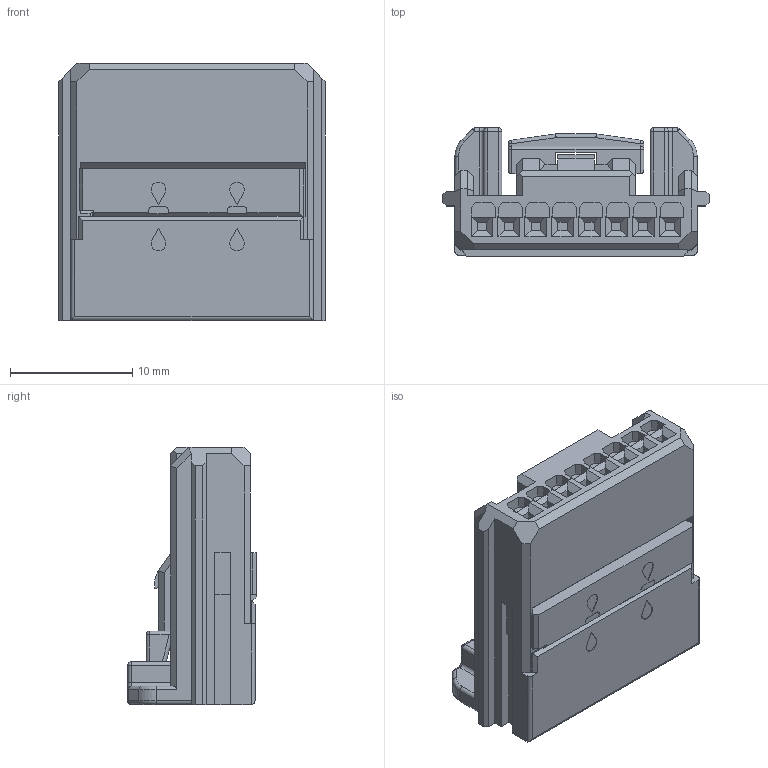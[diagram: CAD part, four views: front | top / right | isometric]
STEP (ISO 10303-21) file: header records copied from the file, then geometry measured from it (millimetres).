
FILE_DESCRIPTION((''),'2;1');
FILE_NAME('C-1746875-2','2010-07-28T',('workeradm'),('Tyco Electronics Ltd.'),'PRO/ENGINEER BY PARAMETRIC TECHNOLOGY CORPORATION, 2009300','PRO/ENGINEER BY PARAMETRIC TECHNOLOGY CORPORATION, 2009300','');
FILE_SCHEMA(('AUTOMOTIVE_DESIGN { 1 0 10303 214 1 1 1 1 }'));
Length unit declared in the file: millimetre
Products named in the file (1): C-1746875-2
Bounding box: 21.8 x 10.5 x 21 mm (x, y, z)
Volume: 2274.2 mm3; surface area: 2285 mm2
Topology: 1 solids, 1 shells, 527 faces, 1389 edges, 884 vertices
Faces by surface type: plane 415, cylinder 92, sphere 14, torus 6
Entity records: 16284 total; most frequent: CARTESIAN_POINT 2936, ORIENTED_EDGE 2778, DIRECTION 2581, EDGE_CURVE 1389, VECTOR 1215, LINE 1215, VERTEX_POINT 884, AXIS2_PLACEMENT_3D 683
